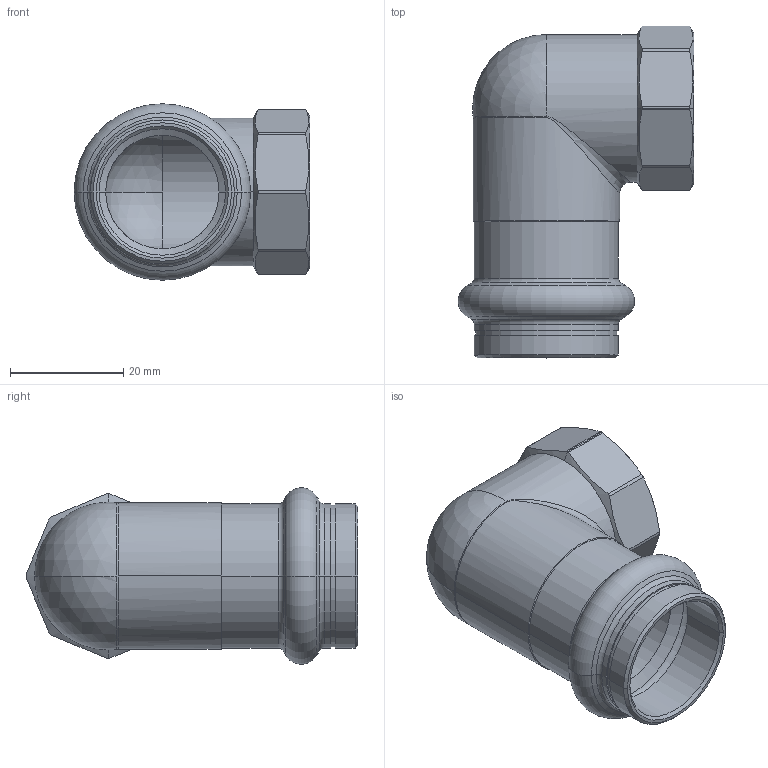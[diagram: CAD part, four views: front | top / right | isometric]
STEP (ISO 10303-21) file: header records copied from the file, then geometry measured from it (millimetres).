
FILE_DESCRIPTION (( 'STEP AP203' ), '1' );
FILE_NAME ('SP4090G Ø22 1-2.STEP', '2017-04-28T08:54:04', ( '' ), ( '' ), 'SwSTEP 2.0', 'SolidWorks 2016', '' );
FILE_SCHEMA (( 'CONFIG_CONTROL_DESIGN' ));
Length unit declared in the file: millimetre
Products named in the file (1): SP4090G Ø22 1-2
Bounding box: 41.55 x 58.5 x 31.1 mm (x, y, z)
Volume: 13456.5 mm3; surface area: 11195.9 mm2
Topology: 1 solids, 1 shells, 84 faces, 202 edges, 119 vertices
Faces by surface type: cylinder 31, cone 22, plane 13, torus 10, sphere 4, bspline 4
Entity records: 3614 total; most frequent: CARTESIAN_POINT 1613, DIRECTION 431, ORIENTED_EDGE 392, EDGE_CURVE 196, AXIS2_PLACEMENT_3D 185, VERTEX_POINT 117, CIRCLE 104, EDGE_LOOP 89
